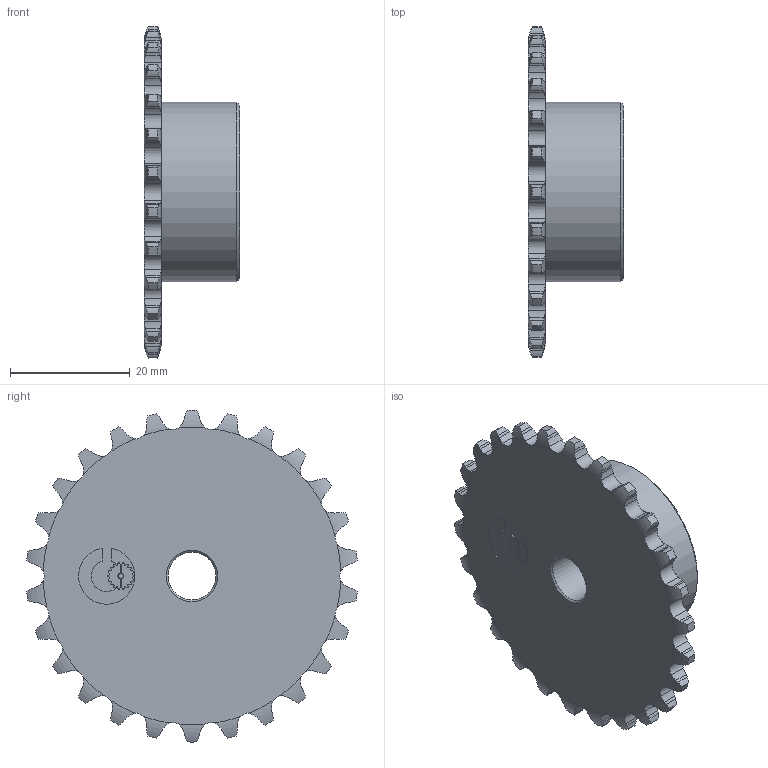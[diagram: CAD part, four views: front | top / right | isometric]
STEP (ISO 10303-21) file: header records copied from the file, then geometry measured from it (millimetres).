
FILE_DESCRIPTION(/* description */ (''),/* implementation_level */ '2;1');
FILE_NAME(/* name */ 'C:\Users\luca.leone\Desktop\ASA25 6.35x3.175\ASA25 0.25X0.125 - 3D\10107026.stp',/* time_stamp */ '2022-07-11T14:51:55+02:00',/* author */ ('luca.leone'),/* organization */ (''),/* preprocessor_version */ 'ST-DEVELOPER v18.1',/* originating_system */ 'Autodesk Inventor 2022',/* authorisation */ '');
FILE_SCHEMA (('AUTOMOTIVE_DESIGN { 1 0 10303 214 3 1 1 }'));
Length unit declared in the file: millimetre
Products named in the file (1): 10107026
Bounding box: 16 x 55.26 x 55.5 mm (x, y, z)
Volume: 14573 mm3; surface area: 6412.9 mm2
Topology: 1 solids, 1 shells, 360 faces, 1057 edges, 703 vertices
Faces by surface type: cylinder 200, plane 105, torus 52, cone 3
Full cylindrical faces by diameter (mm): 0.778 x1, 8 x1, 30 x1
Entity records: 12899 total; most frequent: CARTESIAN_POINT 3857, ORIENTED_EDGE 2114, DIRECTION 1610, EDGE_CURVE 1057, VERTEX_POINT 703, AXIS2_PLACEMENT_3D 608, B_SPLINE_CURVE_WITH_KNOTS 416, LINE 394
